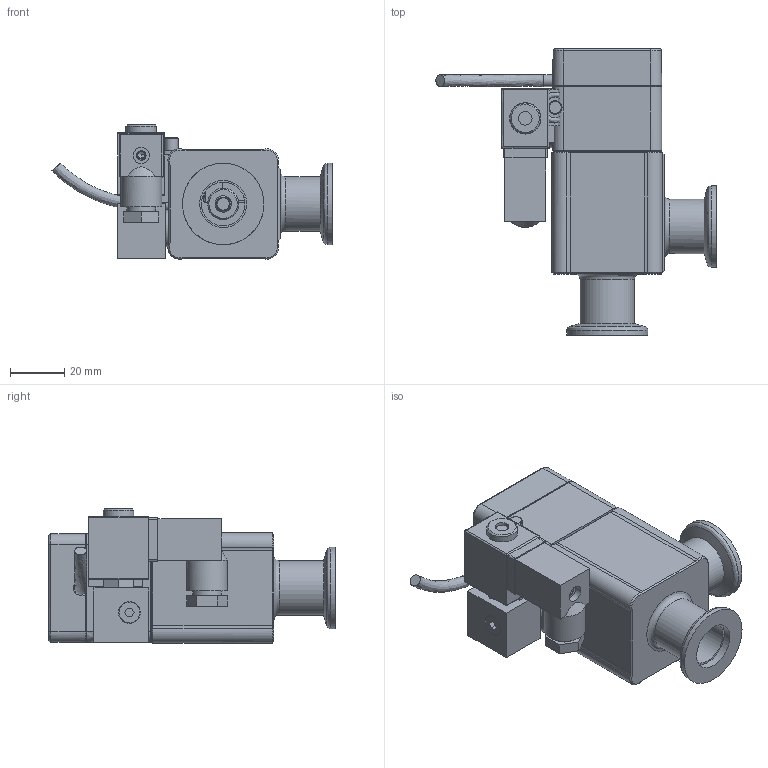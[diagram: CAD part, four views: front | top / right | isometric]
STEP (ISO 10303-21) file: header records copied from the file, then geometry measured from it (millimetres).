
FILE_DESCRIPTION((''),'2;1');
FILE_NAME('C:\TEMP\IDEAS\240248.stp','2009-04-23T08:43:09',('User'),( 'SDRC'),'I-DEAS Master Series 9','UNIX','Yes');
FILE_SCHEMA(('CONFIG_CONTROL_DESIGN'));
Length unit declared in the file: millimetre
Assembly tree (12 placements, depth 0):
Bounding box: 102.92 x 105.2 x 49.4 mm (x, y, z)
Volume: 100440.4 mm3; surface area: 60188.3 mm2
Topology: 10 solids, 13 shells, 682 faces, 1596 edges, 1016 vertices
Faces by surface type: bspline 682
Entity records: 22945 total; most frequent: CARTESIAN_POINT 12049, ORIENTED_EDGE 3082, EDGE_CURVE 1541, VERTEX_POINT 985, EDGE_LOOP 783, FACE_OUTER_BOUND 664, ADVANCED_FACE 664, QUASI_UNIFORM_CURVE 616
